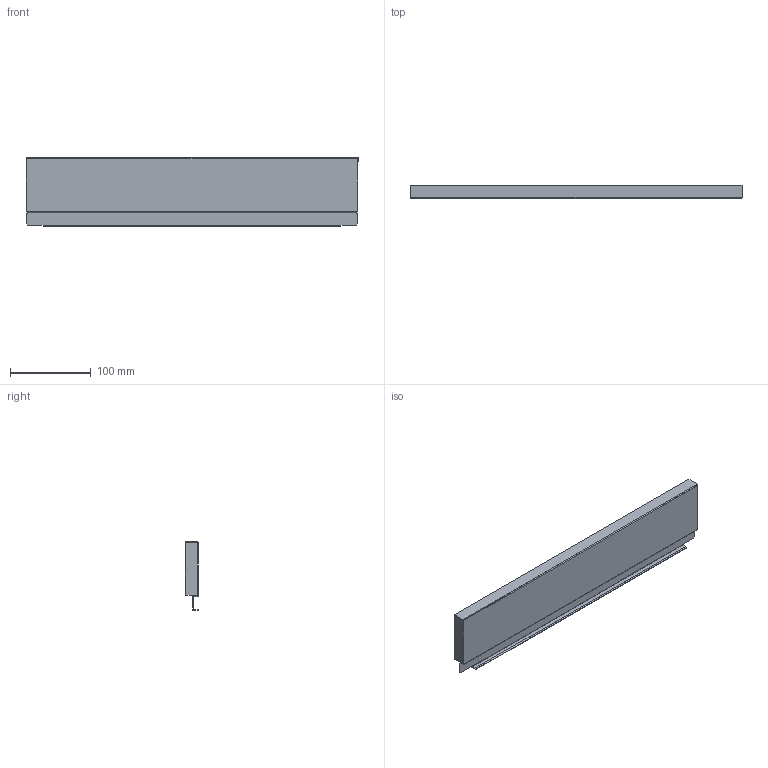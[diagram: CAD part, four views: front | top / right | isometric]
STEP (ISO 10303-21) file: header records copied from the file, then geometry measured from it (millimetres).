
FILE_DESCRIPTION (( 'STEP AP214' ), '1' );
FILE_NAME ('_STRW_H90_KAB_500.step', '2010-08-24T14:40:14', ( 'grass' ), ( '' ), 'SwSTEP 2.0', 'SolidWorks 2009', '' );
FILE_SCHEMA (( 'AUTOMOTIVE_DESIGN' ));
Length unit declared in the file: millimetre
Products named in the file (1): _STRW_H90_KAB_500
Bounding box: 410 x 17 x 85.14 mm (x, y, z)
Volume: 38536 mm3; surface area: 97253.7 mm2
Topology: 1 solids, 1 shells, 76 faces, 214 edges, 140 vertices
Faces by surface type: plane 54, cylinder 22
Entity records: 2472 total; most frequent: CARTESIAN_POINT 431, ORIENTED_EDGE 428, DIRECTION 412, EDGE_CURVE 214, LINE 170, VECTOR 170, VERTEX_POINT 140, AXIS2_PLACEMENT_3D 121
